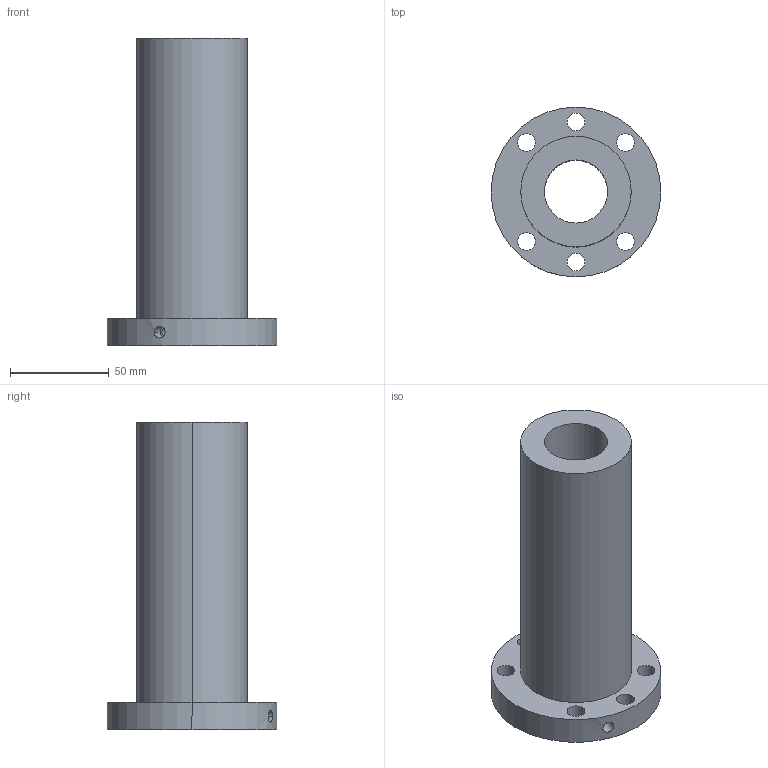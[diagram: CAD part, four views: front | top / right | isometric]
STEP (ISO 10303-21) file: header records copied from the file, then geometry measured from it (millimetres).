
FILE_DESCRIPTION((''),'2;1');
FILE_NAME('32-12K5_4763','2008-04-10T',('yanyu'),(''),'PRO/ENGINEER BY PARAMETRIC TECHNOLOGY CORPORATION, 2005070','PRO/ENGINEER BY PARAMETRIC TECHNOLOGY CORPORATION, 2005070','');
FILE_SCHEMA(('CONFIG_CONTROL_DESIGN'));
Length unit declared in the file: millimetre
Products named in the file (1): 32-12K5_4763
Bounding box: 86 x 86 x 156 mm (x, y, z)
Volume: 299799.4 mm3; surface area: 56432.2 mm2
Topology: 1 solids, 1 shells, 26 faces, 66 edges, 44 vertices
Faces by surface type: cylinder 22, plane 4
Entity records: 922 total; most frequent: CARTESIAN_POINT 186, DIRECTION 154, ORIENTED_EDGE 132, AXIS2_PLACEMENT_3D 66, EDGE_CURVE 66, VERTEX_POINT 44, EDGE_LOOP 44, CIRCLE 40
